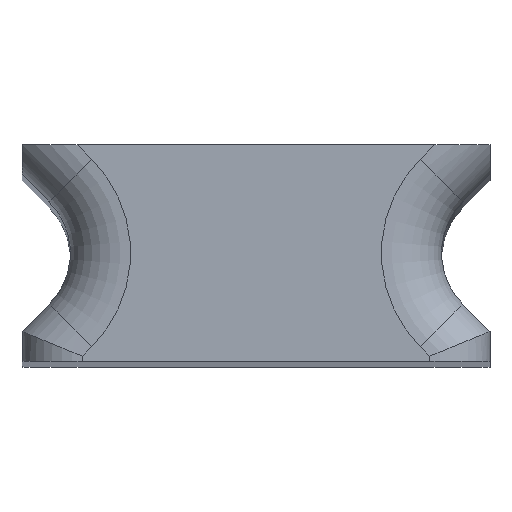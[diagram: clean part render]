
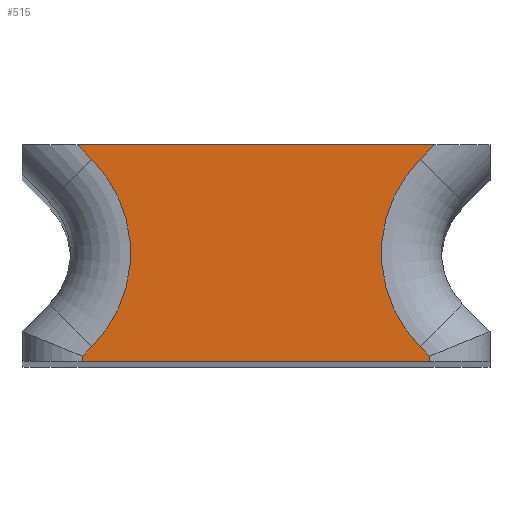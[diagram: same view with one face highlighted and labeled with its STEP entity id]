
A CAD part, top view. The second image highlights one B-rep face of the part: STEP entity #515.
In plain terms, the highlighted planar face has unit normal (0, 0, 1).
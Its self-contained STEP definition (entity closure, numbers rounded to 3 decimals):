
#14=PLANE('',#584);
#38=FACE_OUTER_BOUND('',#68,.T.);
#68=EDGE_LOOP('',(#352,#353,#354,#355,#356,#357,#358,#359,#360,#361));
#93=CIRCLE('',#567,2.2);
#99=CIRCLE('',#580,2.2);
#123=LINE('',#796,#163);
#124=LINE('',#800,#164);
#126=LINE('',#816,#166);
#129=LINE('',#825,#169);
#130=LINE('',#829,#170);
#133=LINE('',#846,#173);
#134=LINE('',#848,#174);
#135=LINE('',#849,#175);
#163=VECTOR('',#629,10.);
#164=VECTOR('',#634,10.);
#166=VECTOR('',#652,10.);
#169=VECTOR('',#659,10.);
#170=VECTOR('',#664,10.);
#173=VECTOR('',#683,10.);
#174=VECTOR('',#686,10.);
#175=VECTOR('',#687,10.);
#204=VERTEX_POINT('',#793);
#205=VERTEX_POINT('',#795);
#206=VERTEX_POINT('',#799);
#208=VERTEX_POINT('',#805);
#212=VERTEX_POINT('',#814);
#215=VERTEX_POINT('',#822);
#216=VERTEX_POINT('',#824);
#217=VERTEX_POINT('',#828);
#220=VERTEX_POINT('',#835);
#222=VERTEX_POINT('',#841);
#248=EDGE_CURVE('',#205,#204,#123,.T.);
#250=EDGE_CURVE('',#204,#206,#124,.T.);
#254=EDGE_CURVE('',#206,#208,#93,.T.);
#258=EDGE_CURVE('',#208,#212,#126,.T.);
#262=EDGE_CURVE('',#216,#215,#129,.T.);
#264=EDGE_CURVE('',#215,#217,#130,.T.);
#269=EDGE_CURVE('',#220,#216,#99,.T.);
#273=EDGE_CURVE('',#222,#220,#133,.T.);
#274=EDGE_CURVE('',#222,#212,#134,.T.);
#275=EDGE_CURVE('',#205,#217,#135,.T.);
#352=ORIENTED_EDGE('',*,*,#248,.T.);
#353=ORIENTED_EDGE('',*,*,#250,.T.);
#354=ORIENTED_EDGE('',*,*,#254,.T.);
#355=ORIENTED_EDGE('',*,*,#258,.T.);
#356=ORIENTED_EDGE('',*,*,#274,.F.);
#357=ORIENTED_EDGE('',*,*,#273,.T.);
#358=ORIENTED_EDGE('',*,*,#269,.T.);
#359=ORIENTED_EDGE('',*,*,#262,.T.);
#360=ORIENTED_EDGE('',*,*,#264,.T.);
#361=ORIENTED_EDGE('',*,*,#275,.F.);
#515=ADVANCED_FACE('',(#38),#14,.T.);
#567=AXIS2_PLACEMENT_3D('',#808,#642,#643);
#580=AXIS2_PLACEMENT_3D('',#838,#674,#675);
#584=AXIS2_PLACEMENT_3D('',#847,#684,#685);
#629=DIRECTION('',(0.,1.,0.));
#634=DIRECTION('',(-0.707,0.707,0.));
#642=DIRECTION('center_axis',(0.,0.,-1.));
#643=DIRECTION('ref_axis',(-1.,0.,0.));
#652=DIRECTION('',(0.707,0.707,0.));
#659=DIRECTION('',(-0.707,-0.707,0.));
#664=DIRECTION('',(0.,-1.,0.));
#674=DIRECTION('center_axis',(0.,0.,-1.));
#675=DIRECTION('ref_axis',(1.,0.,0.));
#683=DIRECTION('',(0.707,-0.707,0.));
#684=DIRECTION('center_axis',(0.,0.,1.));
#685=DIRECTION('ref_axis',(1.,0.,0.));
#686=DIRECTION('',(1.,0.,0.));
#687=DIRECTION('',(-1.,0.,0.));
#793=CARTESIAN_POINT('',(13.886,-1.714,50.));
#795=CARTESIAN_POINT('',(13.886,-1.8,50.));
#796=CARTESIAN_POINT('',(13.886,-0.2,50.));
#799=CARTESIAN_POINT('',(13.727,-1.556,50.));
#800=CARTESIAN_POINT('',(11.946,0.226,50.));
#805=CARTESIAN_POINT('',(13.727,1.556,50.));
#808=CARTESIAN_POINT('Origin',(15.283,0.,50.));
#814=CARTESIAN_POINT('',(13.972,1.8,50.));
#816=CARTESIAN_POINT('',(12.396,0.224,50.));
#822=CARTESIAN_POINT('',(8.114,-1.714,50.));
#824=CARTESIAN_POINT('',(8.273,-1.556,50.));
#825=CARTESIAN_POINT('',(9.083,-0.746,50.));
#828=CARTESIAN_POINT('',(8.114,-1.8,50.));
#829=CARTESIAN_POINT('',(8.114,-0.2,50.));
#835=CARTESIAN_POINT('',(8.273,1.556,50.));
#838=CARTESIAN_POINT('Origin',(6.717,0.,50.));
#841=CARTESIAN_POINT('',(8.028,1.8,50.));
#846=CARTESIAN_POINT('',(8.633,1.196,50.));
#847=CARTESIAN_POINT('Origin',(9.057,0.9,50.));
#848=CARTESIAN_POINT('',(11.,1.8,50.));
#849=CARTESIAN_POINT('',(11.,-1.8,50.));
